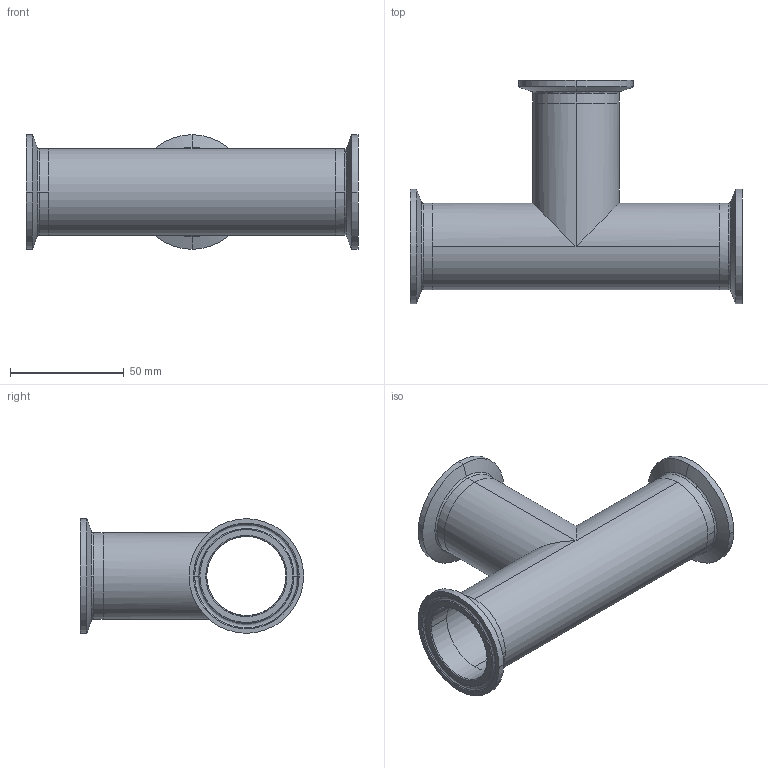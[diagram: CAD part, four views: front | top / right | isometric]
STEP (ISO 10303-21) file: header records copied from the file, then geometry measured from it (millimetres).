
FILE_DESCRIPTION (( 'STEP AP214' ), '1' );
FILE_NAME ('TEG76L1.5-...STEP', '2016-05-23T06:57:47', ( 'eran' ), ( '' ), 'SwSTEP 2.0', 'SolidWorks 2016', '' );
FILE_SCHEMA (( 'AUTOMOTIVE_DESIGN' ));
Length unit declared in the file: millimetre
Products named in the file (1): TEG76L1.5-..
Bounding box: 146 x 98.2 x 50.39 mm (x, y, z)
Volume: 46497.1 mm3; surface area: 51459.9 mm2
Topology: 4 solids, 4 shells, 88 faces, 220 edges, 142 vertices
Faces by surface type: bspline 30, cylinder 28, cone 18, plane 12
Entity records: 4646 total; most frequent: CARTESIAN_POINT 2485, DIRECTION 466, ORIENTED_EDGE 440, EDGE_CURVE 220, AXIS2_PLACEMENT_3D 209, CIRCLE 150, VERTEX_POINT 142, EDGE_LOOP 100
